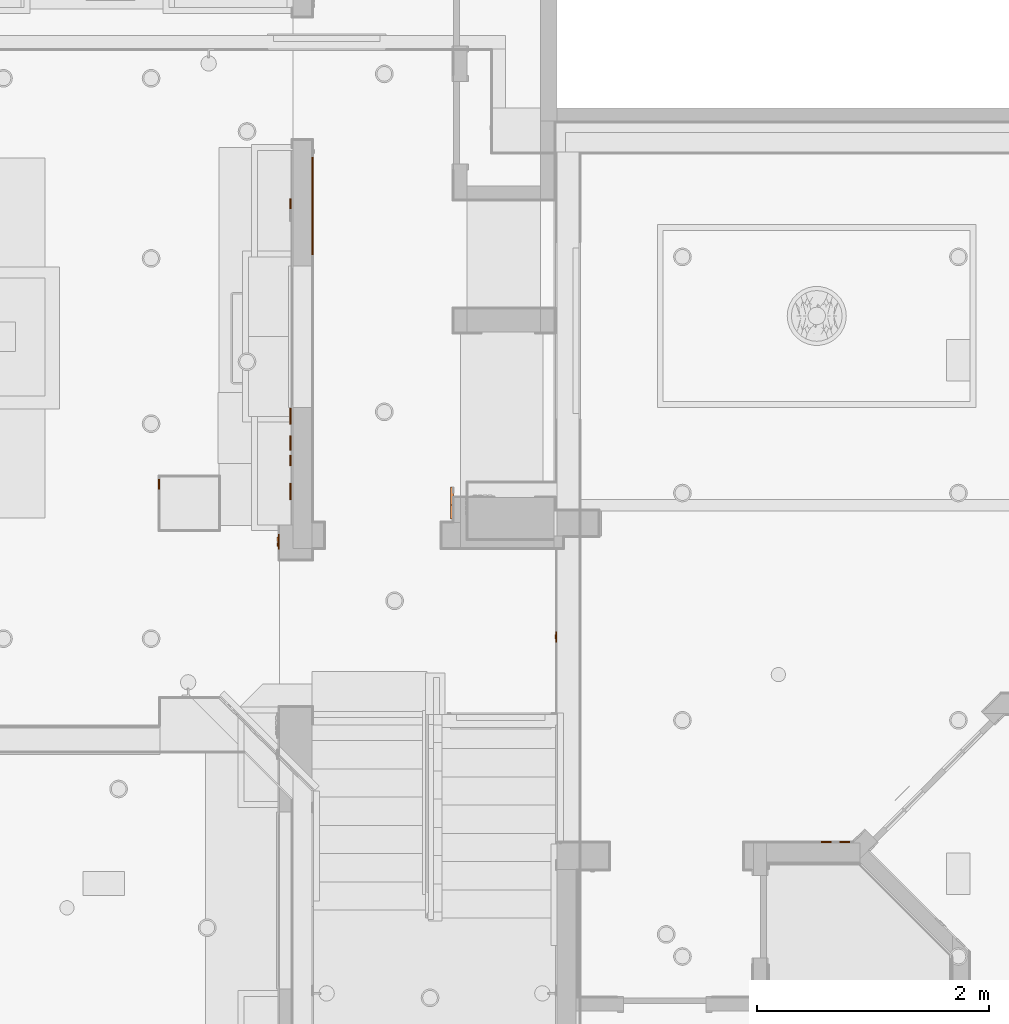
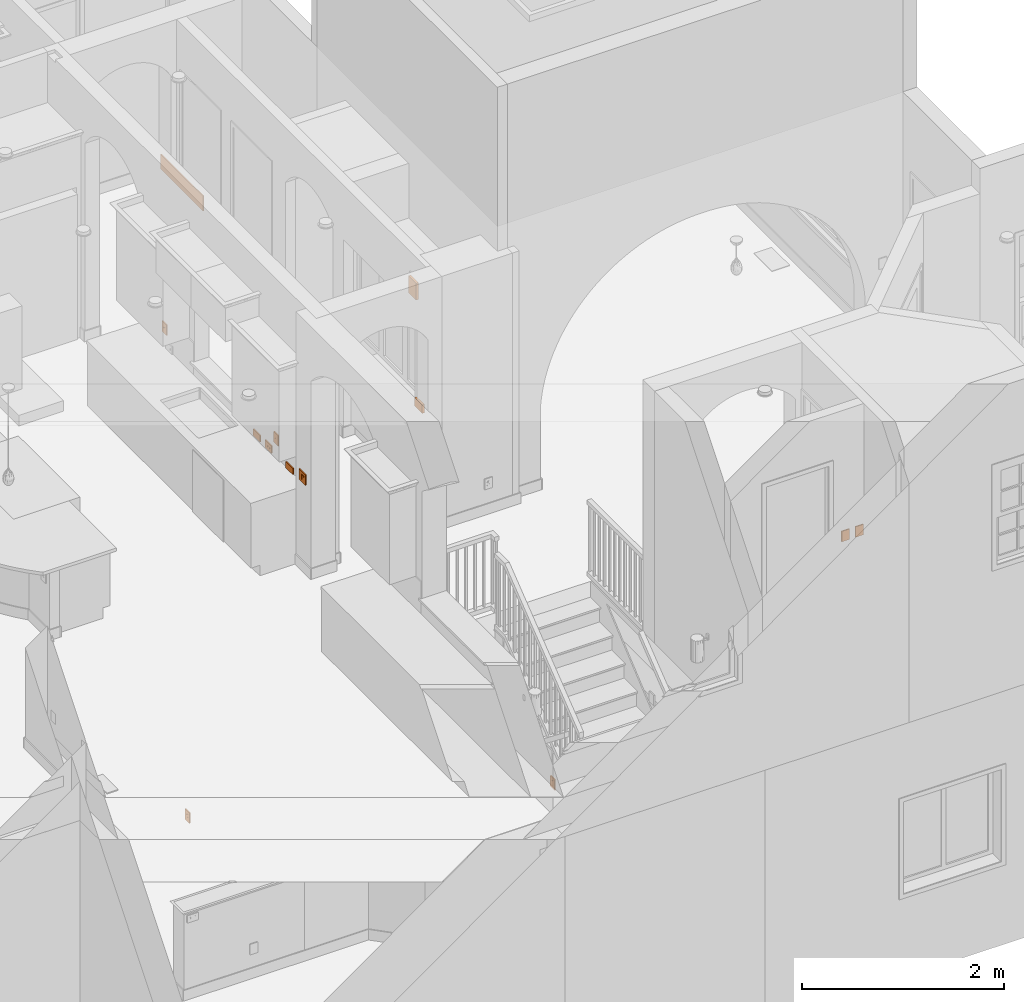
# One storey, part 65 of 81: 13 proxies.
"""IFC2X3 building model written with IfcOpenShell, lengths in feet."""

from ifc_helpers import new_model, entity, si_unit, converted_unit, derived_unit, direction, frame, frame_2d, origin, origin_2d_with_axis, place, context, subcontext, project, spatial, polyline, circle_curve, parameter, trimmed, segment, composite_curve, rectangle, outline, extrude, source, transform, mapped, material, type_object, type_shapes, element, save


model = new_model("IFC2X3")

# Units and contexts
model_context = context("Model", 3, precision=0.0001, world=origin(), true_north=direction((6.12303176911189e-17, 1.0)))
body_context = subcontext(model_context, "Body", "Model", "MODEL_VIEW")
ifc_project = project(units=[converted_unit("LENGTHUNIT", "FOOT", entity("IfcRatioMeasure", 0.3048), si_unit("LENGTHUNIT", "METRE"), dimensions=[1, 0, 0, 0, 0, 0, 0]), converted_unit("AREAUNIT", "SQUARE FOOT", entity("IfcRatioMeasure", 0.09290304), si_unit("AREAUNIT", "SQUARE_METRE"), dimensions=[2, 0, 0, 0, 0, 0, 0]), converted_unit("VOLUMEUNIT", "CUBIC FOOT", entity("IfcRatioMeasure", 0.028316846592), si_unit("VOLUMEUNIT", "CUBIC_METRE"), dimensions=[3, 0, 0, 0, 0, 0, 0]), converted_unit("PLANEANGLEUNIT", "DEGREE", entity("IfcRatioMeasure", 0.0174532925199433), si_unit("PLANEANGLEUNIT", "RADIAN"), dimensions=[0, 0, 0, 0, 0, 0, 0]), si_unit("MASSUNIT", "GRAM", prefix="KILO"), derived_unit("MASSDENSITYUNIT", [(si_unit("MASSUNIT", "GRAM", prefix="KILO"), 1), (si_unit("LENGTHUNIT", "METRE"), -3)]), derived_unit("MOMENTOFINERTIAUNIT", [(si_unit("LENGTHUNIT", "METRE"), 4)]), si_unit("TIMEUNIT", "SECOND"), si_unit("FREQUENCYUNIT", "HERTZ"), si_unit("THERMODYNAMICTEMPERATUREUNIT", "DEGREE_CELSIUS"), derived_unit("THERMALTRANSMITTANCEUNIT", [(si_unit("MASSUNIT", "GRAM", prefix="KILO"), 1), (si_unit("THERMODYNAMICTEMPERATUREUNIT", "KELVIN"), -1), (si_unit("TIMEUNIT", "SECOND"), -3)]), derived_unit("VOLUMETRICFLOWRATEUNIT", [(si_unit("LENGTHUNIT", "METRE"), 3), (si_unit("TIMEUNIT", "SECOND"), -1)]), si_unit("ELECTRICCURRENTUNIT", "AMPERE"), si_unit("ELECTRICVOLTAGEUNIT", "VOLT"), si_unit("POWERUNIT", "WATT"), si_unit("FORCEUNIT", "NEWTON"), si_unit("ILLUMINANCEUNIT", "LUX"), si_unit("LUMINOUSFLUXUNIT", "LUMEN"), si_unit("LUMINOUSINTENSITYUNIT", "CANDELA"), derived_unit("USERDEFINED", [(si_unit("MASSUNIT", "GRAM", prefix="KILO"), -1), (si_unit("LENGTHUNIT", "METRE"), -2), (si_unit("TIMEUNIT", "SECOND"), 3), (si_unit("LUMINOUSFLUXUNIT", "LUMEN"), 1)]), derived_unit("LINEARVELOCITYUNIT", [(si_unit("LENGTHUNIT", "METRE"), 1), (si_unit("TIMEUNIT", "SECOND"), -1)]), si_unit("PRESSUREUNIT", "PASCAL"), derived_unit("USERDEFINED", [(si_unit("LENGTHUNIT", "METRE"), -2), (si_unit("MASSUNIT", "GRAM", prefix="KILO"), 1), (si_unit("TIMEUNIT", "SECOND"), -2)]), derived_unit("LINEARFORCEUNIT", [(si_unit("MASSUNIT", "GRAM", prefix="KILO"), 1), (si_unit("LENGTHUNIT", "METRE"), 1), (si_unit("TIMEUNIT", "SECOND"), -2), (si_unit("LENGTHUNIT", "METRE"), -1)]), derived_unit("PLANARFORCEUNIT", [(si_unit("MASSUNIT", "GRAM", prefix="KILO"), 1), (si_unit("LENGTHUNIT", "METRE"), 1), (si_unit("TIMEUNIT", "SECOND"), -2), (si_unit("LENGTHUNIT", "METRE"), -2)])], contexts=[model_context])

# Site, building, storey
site_placement = place(None, origin())
site = spatial("IfcSite", under=ifc_project, at=site_placement, Name="Default", CompositionType="ELEMENT")
building_placement = place(site_placement, origin())
building = spatial("IfcBuilding", under=site, at=building_placement, CompositionType="ELEMENT")
storey_placement = place(building_placement, origin())
storey = spatial("IfcBuildingStorey", under=building, at=storey_placement, Name="First floor", CompositionType="ELEMENT", Elevation=0.0)

# Proxies
ifc_material = material(Name="Default New Material")
building_element_proxy_type_1 = type_object("IfcBuildingElementProxyType", Name="Switch 4:Switch 4", PredefinedType="NOTDEFINED", material=ifc_material)
shared_shape_1 = source(origin(), body_context, "Body", "SweptSolid", [
    extrude(outline(composite_curve([segment(polyline([(-0.0309162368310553, -0.0465871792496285), (0.0309162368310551, -0.0465871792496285)]), True, "CONTINUOUS"), segment(trimmed(circle_curve(frame_2d((-0.000264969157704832, 0.0), x_axis=(-1.0, 0.0)), 0.056059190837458), [parameter(123.794740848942)], [parameter(236.205259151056)], True, "PARAMETER"), True, "CONTINUOUS"), segment(polyline([(0.0309162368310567, 0.0465871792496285), (-0.0309162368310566, 0.0465871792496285)]), True, "CONTINUOUS"), segment(trimmed(circle_curve(frame_2d((0.000264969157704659, 0.0), x_axis=(1.0, 0.0)), 0.056059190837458), [parameter(123.794740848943)], [parameter(236.205259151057)], True, "PARAMETER"), True, "CONTINUOUS")], self_intersect=False), holes=[polyline([(0.0141623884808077, 0.0279286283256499), (0.0261732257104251, 0.0279286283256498), (0.026173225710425, -0.00693584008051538), (0.0141623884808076, -0.00693584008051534), (0.0141623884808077, 0.0279286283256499)]), polyline([(-0.0152702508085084, 0.0250466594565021), (-0.0152702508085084, -0.00448340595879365), (-0.0278178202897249, -0.00448340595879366), (-0.0278178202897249, 0.0250466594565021), (-0.0152702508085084, 0.0250466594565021)]), composite_curve([segment(polyline([(-0.0120315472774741, -0.041319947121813), (-0.0120315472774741, -0.0300186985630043)]), True, "CONTINUOUS"), segment(trimmed(circle_curve(frame_2d((-0.000284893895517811, -0.0300186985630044), x_axis=(-1.0, 0.0)), 0.0117466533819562), [parameter(180.0)], [parameter(0.0)], True, "PARAMETER"), False, "CONTINUOUS"), segment(polyline([(0.0114617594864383, -0.0300186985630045), (0.0114617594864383, -0.0413199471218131)]), True, "CONTINUOUS"), segment(polyline([(0.0114617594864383, -0.0413199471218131), (-0.0120315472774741, -0.041319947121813)]), True, "CONTINUOUS")], self_intersect=False)]), frame((-0.0114927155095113, 0.0416666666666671, 0.27060332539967), z_axis=(0.0, 1.0, 0.0), x_axis=(-1.0, 0.0, 0.0)), (0.0, 0.0, 1.0), 0.00420900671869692),
    extrude(outline(composite_curve([segment(polyline([(-0.0307631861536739, -0.0463565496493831), (0.0307631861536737, -0.0463565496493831)]), True, "CONTINUOUS"), segment(trimmed(circle_curve(frame_2d((-0.000263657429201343, 0.0), x_axis=(-1.0, 0.0)), 0.0557816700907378), [parameter(123.794740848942)], [parameter(236.205259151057)], True, "PARAMETER"), True, "CONTINUOUS"), segment(polyline([(0.030763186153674, 0.0463565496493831), (-0.0307631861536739, 0.0463565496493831)]), True, "CONTINUOUS"), segment(trimmed(circle_curve(frame_2d((0.00026365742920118, 0.0), x_axis=(1.0, 0.0)), 0.0557816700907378), [parameter(123.794740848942)], [parameter(236.205259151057)], True, "PARAMETER"), True, "CONTINUOUS")], self_intersect=False), holes=[polyline([(0.0140922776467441, 0.0247228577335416), (0.026043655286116, 0.0247228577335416), (0.0260436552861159, -0.00472751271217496), (0.014092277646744, -0.00472751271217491), (0.0140922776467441, 0.0247228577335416)]), polyline([(-0.0151946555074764, 0.0249226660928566), (-0.0151946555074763, -0.0044612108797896), (-0.0276801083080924, -0.00446121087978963), (-0.0276801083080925, 0.0249226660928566), (-0.0151946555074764, 0.0249226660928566)]), composite_curve([segment(polyline([(-0.0119719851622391, -0.0411153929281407), (-0.011971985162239, -0.0298700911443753)]), True, "CONTINUOUS"), segment(trimmed(circle_curve(frame_2d((-0.000283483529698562, -0.0298700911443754), x_axis=(-1.0, 0.0)), 0.0116885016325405), [parameter(180.0)], [parameter(0.0)], True, "PARAMETER"), False, "CONTINUOUS"), segment(polyline([(0.0114050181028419, -0.0298700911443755), (0.0114050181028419, -0.0411153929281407)]), True, "CONTINUOUS"), segment(polyline([(0.0114050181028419, -0.0411153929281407), (-0.0119719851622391, -0.0411153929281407)]), True, "CONTINUOUS")], self_intersect=False)]), frame((-0.0114927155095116, 0.0416666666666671, 0.145832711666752), z_axis=(0.0, 1.0, 0.0), x_axis=(-1.0, 0.0, 0.0)), (0.0, 0.0, 1.0), 0.00420900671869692),
    extrude(rectangle(XDim=0.0416666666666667, YDim=0.291666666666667, at=frame_2d((0.0, 1.38777878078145e-17), x_axis=(1.0, 0.0))), frame((-0.0114927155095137, 0.0208333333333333, 0.0), z_axis=(0.0, 0.0, 1.0), x_axis=(0.0, -1.0, 0.0)), (0.0, 0.0, 1.0), 0.416666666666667),
])
type_shapes(building_element_proxy_type_1, [shared_shape_1])
for number, where, z_axis, x_axis, name in (
    (1, (20.375, 13.1989927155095, 0.958335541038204), (0.0, 0.0, 1.0), (0.0, 1.0, 0.0), "Switch 4:Switch 4"),
    (2, (9.16666666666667, 17.5114927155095, 0.958335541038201), (0.0, 0.0, 1.0), (0.0, 1.0, 0.0), "Switch 4:Switch 4"),
):
    element("IfcBuildingElementProxy", number, at=place(storey_placement, frame(where, z_axis=z_axis, x_axis=x_axis)), inside=storey, type_object=building_element_proxy_type_1, material=ifc_material, Name=name, ObjectType="Switch 4:Switch 4", context=body_context, shape_type="MappedRepresentation", body=[
        mapped(shared_shape_1, transform((0.0, 0.0, 0.0), scale=1.0)),
    ])
proxy_1_placement = place(storey_placement, frame((27.989883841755, 7.375, 11.6250000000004)))
element("IfcBuildingElementProxy", 3, at=proxy_1_placement, inside=storey, type_object=building_element_proxy_type_1, material=ifc_material, Name="Switch 4:Switch 4", ObjectType="Switch 4:Switch 4", context=body_context, shape_type="MappedRepresentation", body=[
    mapped(shared_shape_1, transform((0.0, 0.0, 0.0), scale=1.0)),
])
building_element_proxy_type_2 = type_object("IfcBuildingElementProxyType", Name="Switch 1:Switch 1", PredefinedType="NOTDEFINED", material=ifc_material)
shared_shape_2 = source(origin(), body_context, "Body", "SweptSolid", [
    extrude(rectangle(XDim=0.0416666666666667, YDim=0.291666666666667, at=frame_2d((1.73472347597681e-18, -1.38777878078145e-17), x_axis=(1.0, 0.0))), frame((0.0149704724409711, 0.0208333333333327, 0.0), z_axis=(0.0, 0.0, 1.0), x_axis=(0.0, 1.0, 0.0)), (0.0, 0.0, 1.0), 0.416666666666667),
])
type_shapes(building_element_proxy_type_2, [shared_shape_2])
proxy_2_placement = place(storey_placement, frame((28.4844910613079, 7.375, 11.6250000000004)))
element("IfcBuildingElementProxy", 4, at=proxy_2_placement, inside=storey, type_object=building_element_proxy_type_2, material=ifc_material, Name="Switch 1:Switch 1", ObjectType="Switch 1:Switch 1", context=body_context, shape_type="MappedRepresentation", body=[
    mapped(shared_shape_2, transform((0.0, 0.0, 0.0), scale=1.0)),
])
building_element_proxy_type_3 = type_object("IfcBuildingElementProxyType", Name="Switch 15:Switch 15", PredefinedType="NOTDEFINED", material=ifc_material)
shared_shape_3 = source(origin(), body_context, "Body", "SweptSolid", [
    extrude(outline(composite_curve([segment(polyline([(-0.0309162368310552, -0.0465871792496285), (0.030916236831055, -0.0465871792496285)]), True, "CONTINUOUS"), segment(trimmed(circle_curve(frame_2d((-0.000264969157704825, 0.0), x_axis=(-1.0, 0.0)), 0.056059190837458), [parameter(123.794740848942)], [parameter(236.205259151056)], True, "PARAMETER"), True, "CONTINUOUS"), segment(polyline([(0.0309162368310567, 0.0465871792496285), (-0.0309162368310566, 0.0465871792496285)]), True, "CONTINUOUS"), segment(trimmed(circle_curve(frame_2d((0.000264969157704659, 0.0), x_axis=(1.0, 0.0)), 0.056059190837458), [parameter(123.794740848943)], [parameter(236.205259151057)], True, "PARAMETER"), True, "CONTINUOUS")], self_intersect=False), holes=[polyline([(0.0141623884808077, 0.0279286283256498), (0.026173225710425, 0.0279286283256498), (0.0261732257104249, -0.00693584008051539), (0.0141623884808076, -0.00693584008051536), (0.0141623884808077, 0.0279286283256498)]), polyline([(-0.0152702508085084, 0.0250466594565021), (-0.0152702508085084, -0.00448340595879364), (-0.0278178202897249, -0.00448340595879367), (-0.027817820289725, 0.025046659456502), (-0.0152702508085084, 0.0250466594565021)]), composite_curve([segment(polyline([(-0.0120315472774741, -0.041319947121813), (-0.0120315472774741, -0.0300186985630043)]), True, "CONTINUOUS"), segment(trimmed(circle_curve(frame_2d((-0.000284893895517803, -0.0300186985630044), x_axis=(-1.0, 0.0)), 0.0117466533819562), [parameter(180.0)], [parameter(0.0)], True, "PARAMETER"), False, "CONTINUOUS"), segment(polyline([(0.0114617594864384, -0.0300186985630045), (0.0114617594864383, -0.0413199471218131)]), True, "CONTINUOUS"), segment(polyline([(0.0114617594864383, -0.0413199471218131), (-0.0120315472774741, -0.041319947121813)]), True, "CONTINUOUS")], self_intersect=False)]), frame((-0.0667122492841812, 0.0416666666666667, 0.14583333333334), z_axis=(0.0, 1.0, 0.0), x_axis=(0.0, 0.0, -1.0)), (0.0, 0.0, 1.0), 0.00420900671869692),
    extrude(outline(composite_curve([segment(polyline([(-0.0307631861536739, -0.0463565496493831), (0.0307631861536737, -0.0463565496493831)]), True, "CONTINUOUS"), segment(trimmed(circle_curve(frame_2d((-0.000263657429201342, 0.0), x_axis=(-1.0, 0.0)), 0.0557816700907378), [parameter(123.794740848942)], [parameter(236.205259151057)], True, "PARAMETER"), True, "CONTINUOUS"), segment(polyline([(0.030763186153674, 0.0463565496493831), (-0.0307631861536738, 0.0463565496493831)]), True, "CONTINUOUS"), segment(trimmed(circle_curve(frame_2d((0.000263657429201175, 0.0), x_axis=(1.0, 0.0)), 0.0557816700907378), [parameter(123.794740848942)], [parameter(236.205259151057)], True, "PARAMETER"), True, "CONTINUOUS")], self_intersect=False), holes=[polyline([(0.0140922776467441, 0.0247228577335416), (0.026043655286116, 0.0247228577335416), (0.0260436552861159, -0.00472751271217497), (0.014092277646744, -0.00472751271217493), (0.0140922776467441, 0.0247228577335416)]), polyline([(-0.0151946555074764, 0.0249226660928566), (-0.0151946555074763, -0.00446121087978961), (-0.0276801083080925, -0.00446121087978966), (-0.0276801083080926, 0.0249226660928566), (-0.0151946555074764, 0.0249226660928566)]), composite_curve([segment(polyline([(-0.0119719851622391, -0.0411153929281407), (-0.0119719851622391, -0.0298700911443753)]), True, "CONTINUOUS"), segment(trimmed(circle_curve(frame_2d((-0.000283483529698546, -0.0298700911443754), x_axis=(-1.0, 0.0)), 0.0116885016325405), [parameter(180.0)], [parameter(1.01777749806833e-13)], True, "PARAMETER"), False, "CONTINUOUS"), segment(polyline([(0.011405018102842, -0.0298700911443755), (0.0114050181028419, -0.0411153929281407)]), True, "CONTINUOUS"), segment(polyline([(0.0114050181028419, -0.0411153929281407), (-0.0119719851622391, -0.0411153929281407)]), True, "CONTINUOUS")], self_intersect=False)]), frame((0.058058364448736, 0.0416666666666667, 0.145833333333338), z_axis=(0.0, 1.0, 0.0), x_axis=(0.0, 0.0, -1.0)), (0.0, 0.0, 1.0), 0.00420900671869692),
    extrude(rectangle(XDim=0.0416666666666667, YDim=0.416666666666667, at=origin_2d_with_axis()), frame((-0.00444225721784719, 0.0208333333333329, 0.0), z_axis=(0.0, 0.0, 1.0), x_axis=(0.0, -1.0, 0.0)), (0.0, 0.0, 1.0), 0.291666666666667),
])
type_shapes(building_element_proxy_type_3, [shared_shape_3])
proxy_3_placement = place(storey_placement, frame((12.875, 18.670763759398, 13.6666666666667), z_axis=(0.0, 0.0, 1.0), x_axis=(0.0, 1.0, 0.0)))
element("IfcBuildingElementProxy", 5, at=proxy_3_placement, inside=storey, type_object=building_element_proxy_type_3, material=ifc_material, Name="Switch 15:Switch 15", ObjectType="Switch 15:Switch 15", context=body_context, shape_type="MappedRepresentation", body=[
    mapped(shared_shape_3, transform((0.0, 0.0, 0.0), scale=1.0)),
])
building_element_proxy_type_4 = type_object("IfcBuildingElementProxyType", Name="Wall Duct:Wall Duct", PredefinedType="NOTDEFINED", material=ifc_material)
shared_shape_4 = source(origin(), body_context, "Body", "SweptSolid", [
    extrude(rectangle(XDim=2.75, YDim=0.041666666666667, at=origin_2d_with_axis()), frame((0.0, -0.0208333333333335, 0.0), z_axis=(0.0, 0.0, 1.0), x_axis=(-1.0, 0.0, 0.0)), (0.0, 0.0, 1.0), 0.583333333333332),
])
type_shapes(building_element_proxy_type_4, [shared_shape_4])
proxy_4_placement = place(storey_placement, frame((13.4583333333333, 25.3580195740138, 19.7083333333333), z_axis=(0.0, 0.0, 1.0), x_axis=(0.0, 1.0, 0.0)))
element("IfcBuildingElementProxy", 6, at=proxy_4_placement, inside=storey, type_object=building_element_proxy_type_4, material=ifc_material, Name="Wall Duct:Wall Duct", ObjectType="Wall Duct:Wall Duct", context=body_context, shape_type="MappedRepresentation", body=[
    mapped(shared_shape_4, transform((0.0, 0.0, 0.0), scale=1.0)),
])
building_element_proxy_type_5 = type_object("IfcBuildingElementProxyType", Name="Switch 6:Switch 6", PredefinedType="NOTDEFINED", material=ifc_material)
shared_shape_5 = source(origin(), body_context, "Body", "SweptSolid", [
    extrude(outline(polyline([(-0.0254447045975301, -0.101047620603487), (-0.00704945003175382, -0.101047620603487), (-0.00576030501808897, -0.0270975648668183), (0.021685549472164, 0.114099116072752), (0.0165689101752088, 0.11509369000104), (-0.0254447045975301, -0.101047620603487)])), frame((0.0159752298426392, 0.0473630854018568, 0.202286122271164), z_axis=(1.0, 0.0, 0.0), x_axis=(0.0, 0.981627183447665, 0.190808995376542)), (0.0, 0.0, 1.0), 0.104166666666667),
    extrude(outline(polyline([(-0.105609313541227, -0.00595439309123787), (0.114577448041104, -0.00595439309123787), (0.114577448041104, -0.000741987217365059), (-0.0216969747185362, -0.00074198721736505), (-0.101848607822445, 0.0133927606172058), (-0.105609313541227, -0.00595439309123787)])), frame((-0.129858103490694, 0.047621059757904, 0.211324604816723), z_axis=(1.0, 0.0, 0.0), x_axis=(0.0, 0.0, -1.0)), (0.0, 0.0, 1.0), 0.104166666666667),
    extrude(rectangle(XDim=0.0416666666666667, YDim=0.416666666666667, at=frame_2d((0.0, -1.38777878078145e-17), x_axis=(1.0, 0.0))), frame((-0.00485810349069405, 0.0208333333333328, 0.0), z_axis=(0.0, 0.0, 1.0), x_axis=(0.0, -1.0, 0.0)), (0.0, 0.0, 1.0), 0.416666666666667),
])
type_shapes(building_element_proxy_type_5, [shared_shape_5])
proxy_5_placement = place(storey_placement, frame((12.5416666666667, 15.8795129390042, 14.2083333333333), z_axis=(0.0, 0.0, 1.0), x_axis=(0.0, 1.0, 0.0)))
element("IfcBuildingElementProxy", 7, at=proxy_5_placement, inside=storey, type_object=building_element_proxy_type_5, material=ifc_material, Name="Switch 6:Switch 6", ObjectType="Switch 6:Switch 6", context=body_context, shape_type="MappedRepresentation", body=[
    mapped(shared_shape_5, transform((0.0, 0.0, 0.0), scale=1.0)),
])
building_element_proxy_type_6 = type_object("IfcBuildingElementProxyType", Name="Switch 18:Switch 18", PredefinedType="NOTDEFINED", material=ifc_material)
shared_shape_6 = source(origin(), body_context, "Body", "SweptSolid", [
    extrude(outline(composite_curve([segment(polyline([(-0.0307631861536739, -0.0463565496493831), (0.0307631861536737, -0.0463565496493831)]), True, "CONTINUOUS"), segment(trimmed(circle_curve(frame_2d((-0.000263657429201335, 0.0), x_axis=(-1.0, 0.0)), 0.0557816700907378), [parameter(123.794740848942)], [parameter(236.205259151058)], True, "PARAMETER"), True, "CONTINUOUS"), segment(polyline([(0.030763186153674, 0.0463565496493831), (-0.0307631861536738, 0.0463565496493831)]), True, "CONTINUOUS"), segment(trimmed(circle_curve(frame_2d((0.000263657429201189, 0.0), x_axis=(1.0, 0.0)), 0.0557816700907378), [parameter(123.794740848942)], [parameter(236.205259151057)], True, "PARAMETER"), True, "CONTINUOUS")], self_intersect=False), holes=[polyline([(0.0140922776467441, 0.0247228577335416), (0.026043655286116, 0.0247228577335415), (0.0260436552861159, -0.00472751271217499), (0.014092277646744, -0.00472751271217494), (0.0140922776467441, 0.0247228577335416)]), polyline([(-0.0151946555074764, 0.0249226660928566), (-0.0151946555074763, -0.00446121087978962), (-0.0276801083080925, -0.00446121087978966), (-0.0276801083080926, 0.0249226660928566), (-0.0151946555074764, 0.0249226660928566)]), composite_curve([segment(polyline([(-0.0119719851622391, -0.0411153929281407), (-0.0119719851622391, -0.0298700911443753)]), True, "CONTINUOUS"), segment(trimmed(circle_curve(frame_2d((-0.000283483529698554, -0.0298700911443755), x_axis=(-1.0, 0.0)), 0.0116885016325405), [parameter(180.0)], [parameter(0.0)], True, "PARAMETER"), False, "CONTINUOUS"), segment(polyline([(0.011405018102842, -0.0298700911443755), (0.0114050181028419, -0.0411153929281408)]), True, "CONTINUOUS"), segment(polyline([(0.0114050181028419, -0.0411153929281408), (-0.0119719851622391, -0.0411153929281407)]), True, "CONTINUOUS")], self_intersect=False)]), frame((-0.0114927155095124, 0.0416666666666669, 0.208333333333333), z_axis=(0.0, 1.0, 0.0), x_axis=(-1.0, 0.0, 0.0)), (0.0, 0.0, 1.0), 0.00420900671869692),
    extrude(rectangle(XDim=0.0416666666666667, YDim=0.291666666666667, at=frame_2d((0.0, 1.38777878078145e-17), x_axis=(1.0, 0.0))), frame((-0.0114927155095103, 0.0208333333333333, 0.0), z_axis=(0.0, 0.0, 1.0), x_axis=(0.0, -1.0, 0.0)), (0.0, 0.0, 1.0), 0.416666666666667),
])
type_shapes(building_element_proxy_type_6, [shared_shape_6])
proxy_6_placement = place(storey_placement, frame((12.8749999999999, 18.1778142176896, 14.2083333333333), z_axis=(0.0, 0.0, 1.0), x_axis=(0.0, 1.0, 0.0)))
element("IfcBuildingElementProxy", 8, at=proxy_6_placement, inside=storey, type_object=building_element_proxy_type_6, material=ifc_material, Name="Switch 18:Switch 18", ObjectType="Switch 18:Switch 18", context=body_context, shape_type="MappedRepresentation", body=[
    mapped(shared_shape_6, transform((0.0, 0.0, 0.0), scale=1.0)),
])
building_element_proxy_type_7 = type_object("IfcBuildingElementProxyType", Name="Switch 1:Switch 1", PredefinedType="NOTDEFINED", material=ifc_material)
shared_shape_7 = source(origin(), body_context, "Body", "SweptSolid", [
    extrude(rectangle(XDim=0.0416666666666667, YDim=0.458333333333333, at=frame_2d((-1.73472347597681e-18, -1.38777878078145e-17), x_axis=(1.0, 0.0))), frame((0.09830380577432, 0.0208333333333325, 0.0), z_axis=(0.0, 0.0, 1.0), x_axis=(0.0, 1.0, 0.0)), (0.0, 0.0, 1.0), 0.25),
])
type_shapes(building_element_proxy_type_7, [shared_shape_7])
for number, where, z_axis, x_axis, name in (
    (9, (12.875, 17.1930176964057, 13.6666666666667), (0.0, 0.0, 1.0), (0.0, 1.0, 0.0), "Switch 1:Switch 1"),
    (10, (12.875, 19.3180176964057, 13.6666666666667), (0.0, 0.0, 1.0), (0.0, 1.0, 0.0), "Switch 1:Switch 1"),
):
    element("IfcBuildingElementProxy", number, at=place(storey_placement, frame(where, z_axis=z_axis, x_axis=x_axis)), inside=storey, type_object=building_element_proxy_type_7, material=ifc_material, Name=name, ObjectType="Switch 1:Switch 1", context=body_context, shape_type="MappedRepresentation", body=[
        mapped(shared_shape_7, transform((0.0, 0.0, 0.0), scale=1.0)),
    ])
building_element_proxy_type_8 = type_object("IfcBuildingElementProxyType", Name="Switch 18:Switch 18", PredefinedType="NOTDEFINED", material=ifc_material)
shared_shape_8 = source(origin(), body_context, "Body", "SweptSolid", [
    extrude(outline(composite_curve([segment(polyline([(-0.0307631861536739, -0.0463565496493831), (0.0307631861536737, -0.0463565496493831)]), True, "CONTINUOUS"), segment(trimmed(circle_curve(frame_2d((-0.000263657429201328, 0.0), x_axis=(-1.0, 0.0)), 0.0557816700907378), [parameter(123.794740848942)], [parameter(236.205259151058)], True, "PARAMETER"), True, "CONTINUOUS"), segment(polyline([(0.030763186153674, 0.0463565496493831), (-0.0307631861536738, 0.0463565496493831)]), True, "CONTINUOUS"), segment(trimmed(circle_curve(frame_2d((0.000263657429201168, 0.0), x_axis=(1.0, 0.0)), 0.0557816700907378), [parameter(123.794740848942)], [parameter(236.205259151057)], True, "PARAMETER"), True, "CONTINUOUS")], self_intersect=False), holes=[polyline([(0.0140922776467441, 0.0247228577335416), (0.026043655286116, 0.0247228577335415), (0.0260436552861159, -0.00472751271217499), (0.014092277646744, -0.00472751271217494), (0.0140922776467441, 0.0247228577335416)]), polyline([(-0.0151946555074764, 0.0249226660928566), (-0.0151946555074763, -0.00446121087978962), (-0.0276801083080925, -0.00446121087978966), (-0.0276801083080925, 0.0249226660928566), (-0.0151946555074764, 0.0249226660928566)]), composite_curve([segment(polyline([(-0.0119719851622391, -0.0411153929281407), (-0.0119719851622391, -0.0298700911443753)]), True, "CONTINUOUS"), segment(trimmed(circle_curve(frame_2d((-0.000283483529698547, -0.0298700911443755), x_axis=(-1.0, 0.0)), 0.0116885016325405), [parameter(180.0)], [parameter(0.0)], True, "PARAMETER"), False, "CONTINUOUS"), segment(polyline([(0.011405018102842, -0.0298700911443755), (0.011405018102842, -0.0411153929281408)]), True, "CONTINUOUS"), segment(polyline([(0.011405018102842, -0.0411153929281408), (-0.0119719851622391, -0.0411153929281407)]), True, "CONTINUOUS")], self_intersect=False)]), frame((-0.0114927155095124, -0.0458756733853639, 0.208333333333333), z_axis=(0.0, 1.0, 0.0), x_axis=(-1.0, 0.0, 0.0)), (0.0, 0.0, 1.0), 0.00420900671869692),
    extrude(rectangle(XDim=0.291666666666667, YDim=0.0416666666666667, at=frame_2d((0.0, -1.73472347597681e-18), x_axis=(1.0, 0.0))), frame((-0.0114927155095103, -0.0208333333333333, 0.0)), (0.0, 0.0, 1.0), 0.416666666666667),
])
type_shapes(building_element_proxy_type_8, [shared_shape_8])
proxy_7_placement = place(storey_placement, frame((12.8749999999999, 25.4048287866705, 14.2083333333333), z_axis=(0.0, 0.0, 1.0), x_axis=(0.0, -1.0, 0.0)))
element("IfcBuildingElementProxy", 11, at=proxy_7_placement, inside=storey, type_object=building_element_proxy_type_8, material=ifc_material, Name="Switch 18:Switch 18", ObjectType="Switch 18:Switch 18", context=body_context, shape_type="MappedRepresentation", body=[
    mapped(shared_shape_8, transform((0.0, 0.0, 0.0), scale=1.0)),
])
building_element_proxy_type_9 = type_object("IfcBuildingElementProxyType", Name="Specialty Equipment_1:Specialty Equipment_1", PredefinedType="NOTDEFINED", material=ifc_material)
shared_shape_9 = source(origin(), body_context, "Body", "SweptSolid", [
    extrude(rectangle(XDim=0.5, YDim=0.0833333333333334, at=origin_2d_with_axis()), frame((0.0, -0.0416666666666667, 0.0), z_axis=(0.0, 0.0, 1.0), x_axis=(-1.0, 0.0, 0.0)), (0.0, 0.0, 1.0), 0.333333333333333),
])
type_shapes(building_element_proxy_type_9, [shared_shape_9])
proxy_8_placement = place(storey_placement, frame((17.375, 16.7704881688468, 14.8333333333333), z_axis=(0.0, 0.0, 1.0), x_axis=(0.0, 1.0, 0.0)))
element("IfcBuildingElementProxy", 12, at=proxy_8_placement, inside=storey, type_object=building_element_proxy_type_9, material=ifc_material, Name="Specialty Equipment_1:Specialty Equipment_1", ObjectType="Specialty Equipment_1:Specialty Equipment_1", context=body_context, shape_type="MappedRepresentation", body=[
    mapped(shared_shape_9, transform((0.0, 0.0, 0.0), scale=1.0)),
])
building_element_proxy_type_10 = type_object("IfcBuildingElementProxyType", Name="Specialty Equipment_1:Specialty Equipment_1", PredefinedType="NOTDEFINED", material=ifc_material)
shared_shape_10 = source(origin(), body_context, "Body", "SweptSolid", [
    extrude(rectangle(XDim=0.5, YDim=0.0833333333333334, at=origin_2d_with_axis()), frame((0.0, -0.0416666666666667, 0.0), z_axis=(0.0, 0.0, 1.0), x_axis=(-1.0, 0.0, 0.0)), (0.0, 0.0, 1.0), 0.666666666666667),
])
type_shapes(building_element_proxy_type_10, [shared_shape_10])
proxy_9_placement = place(storey_placement, frame((17.375, 17.1663215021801, 19.0833333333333), z_axis=(0.0, 0.0, 1.0), x_axis=(0.0, 1.0, 0.0)))
element("IfcBuildingElementProxy", 13, at=proxy_9_placement, inside=storey, type_object=building_element_proxy_type_10, material=ifc_material, Name="Specialty Equipment_1:Specialty Equipment_1", ObjectType="Specialty Equipment_1:Specialty Equipment_1", context=body_context, shape_type="MappedRepresentation", body=[
    mapped(shared_shape_10, transform((0.0, 0.0, 0.0), scale=1.0)),
])

save(model, "model.ifc")
